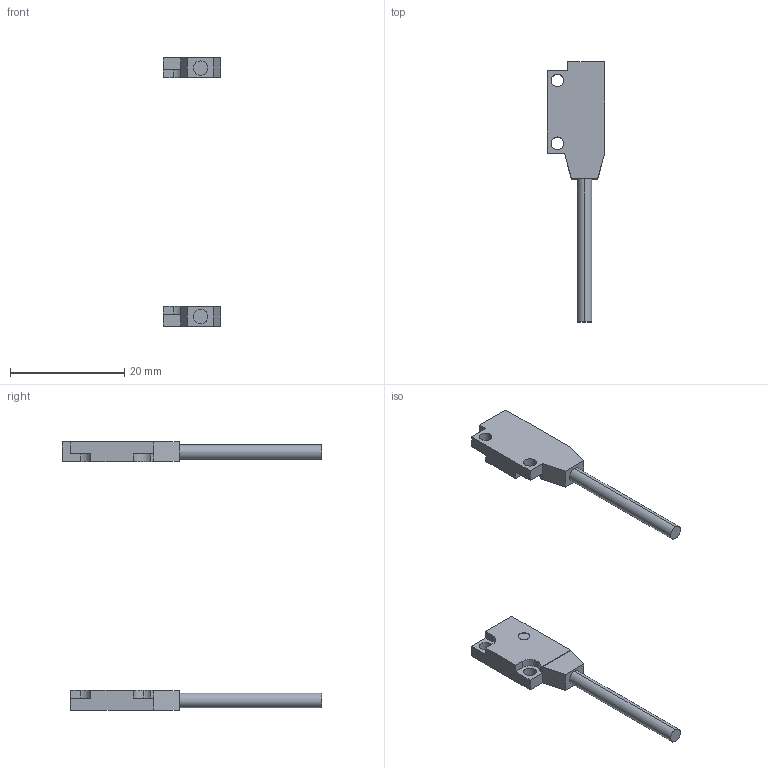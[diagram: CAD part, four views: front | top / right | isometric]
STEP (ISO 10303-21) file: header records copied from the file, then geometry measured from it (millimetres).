
FILE_DESCRIPTION (( 'STEP AP203' ), '1' );
FILE_NAME ('EX-11A.STEP', '2006-01-23T11:02:34', ( ' ' ), ( ' ' ), 'SwSTEP 2.0', 'SolidWorks 2005235', '' );
FILE_SCHEMA (( 'CONFIG_CONTROL_DESIGN' ));
Length unit declared in the file: millimetre
Products named in the file (3): EX-11A; EX-11AP_蹬怮椔; EX-11AD_蹬怮椔
Assembly tree (2 placements, depth 2):
  EX-11A
    EX-11AP_蹬怮椔
    EX-11AD_蹬怮椔
Bounding box: 10 x 45.5 x 47 mm (x, y, z)
Volume: 1372.8 mm3; surface area: 1525 mm2
Topology: 2 solids, 2 shells, 70 faces, 174 edges, 114 vertices
Faces by surface type: plane 49, cylinder 21
Entity records: 2393 total; most frequent: DIRECTION 366, CARTESIAN_POINT 363, ORIENTED_EDGE 348, EDGE_CURVE 174, VECTOR 132, LINE 132, AXIS2_PLACEMENT_3D 117, VERTEX_POINT 114
